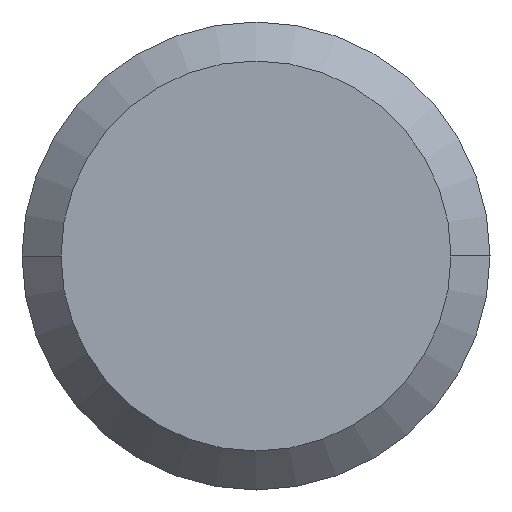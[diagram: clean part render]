
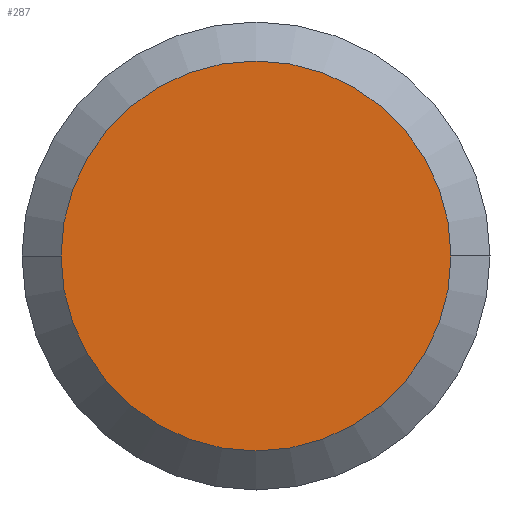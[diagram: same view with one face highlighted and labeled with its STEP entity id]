
A CAD part, left-side view. The second image highlights one B-rep face of the part: STEP entity #287.
In plain terms, the highlighted planar face has unit normal (-1, 0, 0).
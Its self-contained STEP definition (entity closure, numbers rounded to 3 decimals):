
#10 = CARTESIAN_POINT ( 'NONE',  ( -43., 2.5, 0. ) ) ;
#49 = AXIS2_PLACEMENT_3D ( 'NONE', #434, #212, #475 ) ;
#77 = VERTEX_POINT ( 'NONE', #10 ) ;
#92 = EDGE_LOOP ( 'NONE', ( #470, #514 ) ) ;
#125 = DIRECTION ( 'NONE',  ( -1., 0., 0. ) ) ;
#141 = EDGE_CURVE ( 'NONE', #77, #201, #384, .T. ) ;
#158 = DIRECTION ( 'NONE',  ( 1., 0., 0. ) ) ;
#166 = EDGE_CURVE ( 'NONE', #201, #77, #267, .T. ) ;
#201 = VERTEX_POINT ( 'NONE', #251 ) ;
#212 = DIRECTION ( 'NONE',  ( 1., 0., 0. ) ) ;
#235 = AXIS2_PLACEMENT_3D ( 'NONE', #390, #158, #430 ) ;
#251 = CARTESIAN_POINT ( 'NONE',  ( -43., -2.5, 0. ) ) ;
#254 = FACE_OUTER_BOUND ( 'NONE', #92, .T. ) ;
#267 = CIRCLE ( 'NONE', #49, 2.5 ) ;
#287 = ADVANCED_FACE ( 'NONE', ( #254 ), #439, .T. ) ;
#384 = CIRCLE ( 'NONE', #235, 2.5 ) ;
#390 = CARTESIAN_POINT ( 'NONE',  ( -43., 0., 0. ) ) ;
#398 = AXIS2_PLACEMENT_3D ( 'NONE', #468, #125, #401 ) ;
#401 = DIRECTION ( 'NONE',  ( 0., -1., 0. ) ) ;
#430 = DIRECTION ( 'NONE',  ( 0., 1., 0. ) ) ;
#434 = CARTESIAN_POINT ( 'NONE',  ( -43., 0., 0. ) ) ;
#439 = PLANE ( 'NONE',  #398 ) ;
#468 = CARTESIAN_POINT ( 'NONE',  ( -43., 0., 0. ) ) ;
#470 = ORIENTED_EDGE ( 'NONE', *, *, #141, .F. ) ;
#475 = DIRECTION ( 'NONE',  ( 0., 1., 0. ) ) ;
#514 = ORIENTED_EDGE ( 'NONE', *, *, #166, .F. ) ;
